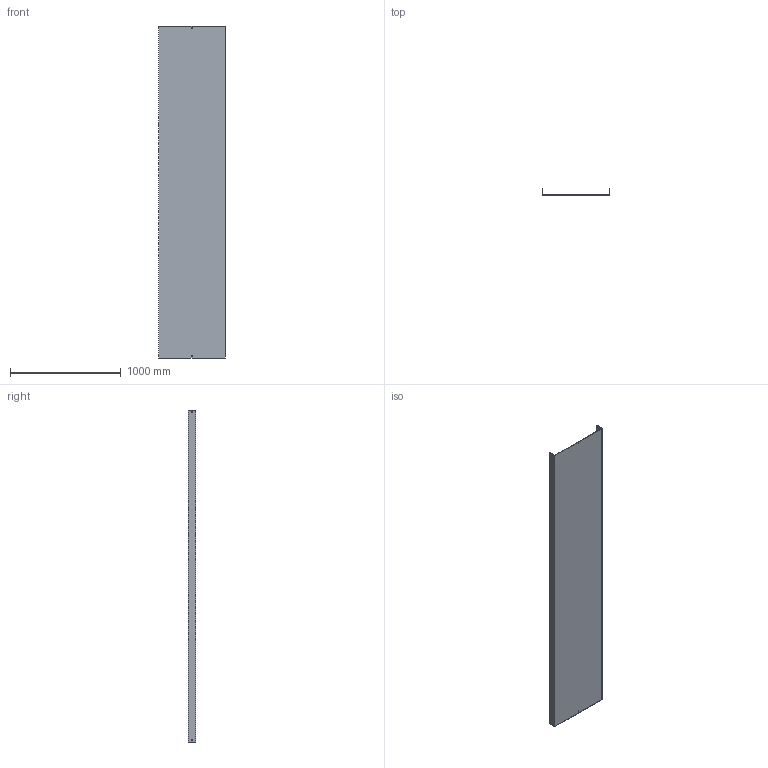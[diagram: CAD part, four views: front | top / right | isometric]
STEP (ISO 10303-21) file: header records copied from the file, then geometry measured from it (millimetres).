
FILE_DESCRIPTION (( 'STEP AP214' ), '1' );
FILE_NAME ('03B3H600.step', '2025-02-21T10:18:25', ( '' ), ( '' ), 'SwSTEP 2.0', 'SolidWorks 2023', '' );
FILE_SCHEMA (( 'AUTOMOTIVE_DESIGN' ));
Length unit declared in the file: millimetre
Products named in the file (1): 03B3H600
Bounding box: 604 x 65.5 x 3000 mm (x, y, z)
Volume: 7642610.5 mm3; surface area: 4393995 mm2
Topology: 1 solids, 1 shells, 34 faces, 96 edges, 64 vertices
Faces by surface type: plane 34
Entity records: 1127 total; most frequent: CARTESIAN_POINT 195, ORIENTED_EDGE 192, DIRECTION 166, LINE 96, EDGE_CURVE 96, VECTOR 96, VERTEX_POINT 64, EDGE_LOOP 46
